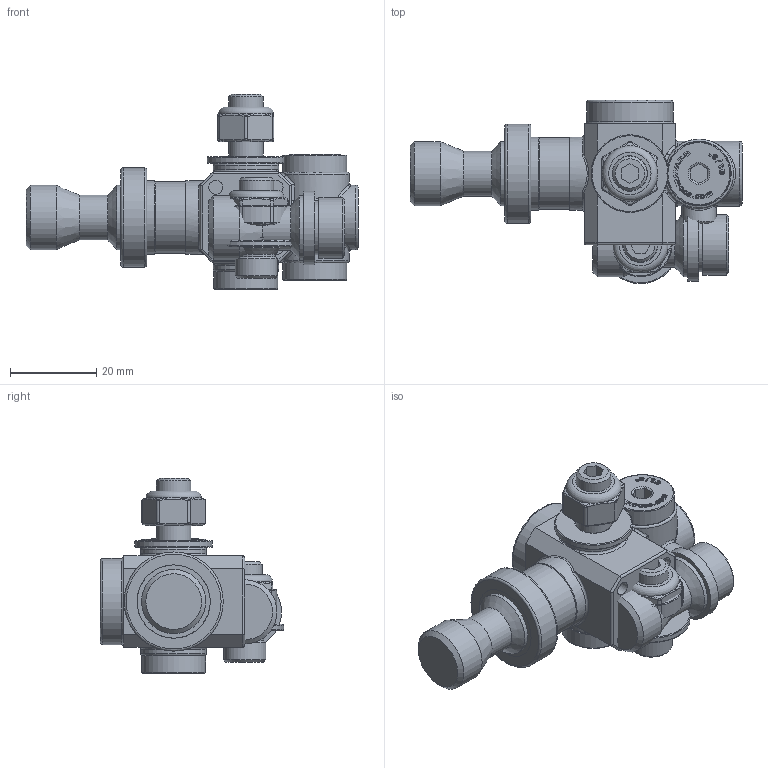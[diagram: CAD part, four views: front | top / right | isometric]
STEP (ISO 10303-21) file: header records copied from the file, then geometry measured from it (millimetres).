
FILE_DESCRIPTION( ( 'Unknown' ), '1' );
FILE_NAME( 'C:/Documents and Settings/Administrator/官帕 拳搁/vacuum speeder/VSM202-MR8.stp', 'Unknown', ( 'Unknown' ), ( 'Unknown' ), 'PSStep 10.0', 'Unknown', ' ' );
FILE_SCHEMA( ( 'AUTOMOTIVE_DESIGN { 1 0 10303 214 1 1 1 1 }' ) );
Length unit declared in the file: millimetre
Products named in the file (6): Assem1; VSM 夥; VC202P; Plug18_New_PPS; Plug-VSMP18; M( )8_Assy
Bounding box: 77 x 42.5 x 45.35 mm (x, y, z)
Volume: 49754.6 mm3; surface area: 29755.5 mm2
Topology: 12 solids, 12 shells, 1282 faces, 3102 edges, 1978 vertices
Faces by surface type: plane 754, cylinder 156, bspline 142, extrusion 124, torus 50, cone 36, revolution 14, sphere 6
Full cylindrical faces by diameter (mm): 3.242 x8, 4.134 x2, 8 x6, 8.215 x2, 8.332 x4, 8.4 x2, 8.566 x8, 8.8 x6, 9.8 x4, 10.4 x2, 11.445 x2, 12 x6, 12.5 x4, 12.8 x4, 14 x4, 14.8 x4, 14.9 x4, 15 x2, 15.2 x4, 16.6 x2, 17 x8, 18 x2, 20 x2, 23 x2
Entity records: 23182 total; most frequent: CARTESIAN_POINT 10302, ORIENTED_EDGE 1892, DIRECTION 1690, EDGE_CURVE 946, VERTEX_POINT 640, EDGE_LOOP 580, AXIS2_PLACEMENT_3D 572, VECTOR 539
